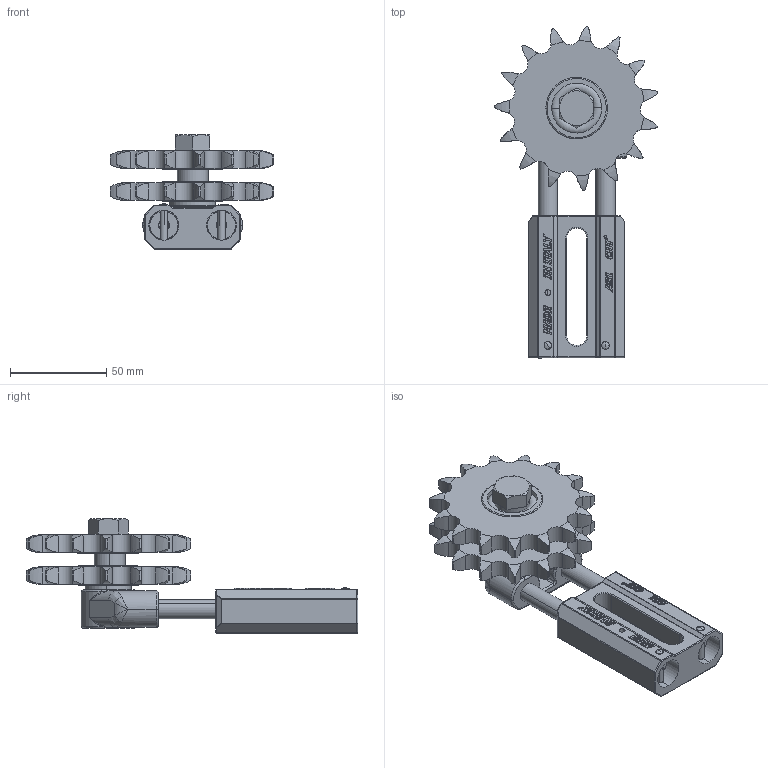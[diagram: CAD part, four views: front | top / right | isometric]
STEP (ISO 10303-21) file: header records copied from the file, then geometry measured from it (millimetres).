
FILE_DESCRIPTION (( 'STEP AP203' ), '1' );
FILE_NAME ('ASR1 5-8D cod.94021152.STEP', '2018-05-24T12:52:57', ( '' ), ( '' ), 'SwSTEP 2.0', 'SolidWorks 2016', '' );
FILE_SCHEMA (( 'CONFIG_CONTROL_DESIGN' ));
Length unit declared in the file: millimetre
Products named in the file (14): DS 5-8 12-16-6.6; AS 1-Base; ISO 4018 - M12 x 45-NC_ISO 4018 - M12 x 45-NC; R 5-8D M12 cod. 94061502_Montaggio; ASR1 5-8D cod.94021152; AS1 M12 cod. 94021012N; Chain wheel ISO - 15Z 10B-1 --15SA32.0N_Chain wheel ISO - 15Z 10B-1 --15SA32.0N; AS1-COL-AVP-comm.; Washer ISO 7089 - 12_Washer ISO 7089 - 12; ISO 8745-M4x22-St_ISO 8745-M4x22-St; Testa AS1 M12; SKF - 6201 - 8,SI,NC,8_68_SKF - 6201 - 8,SI,NC,8_68; Boccola 10-12-15; Ron. 5.3X15X1.2
Assembly tree (19 placements, depth 3):
  ASR1 5-8D cod.94021152
    AS1 M12 cod. 94021012N
      AS 1-Base
      AS1-COL-AVP-comm.  x2
      Boccola 10-12-15  x2
      Testa AS1 M12
      ISO 8745-M4x22-St_ISO 8745-M4x22-St  x2
      Ron. 5.3X15X1.2  x2
    R 5-8D M12 cod. 94061502_Montaggio
      Chain wheel ISO - 15Z 10B-1 --15SA32.0N_Chain wheel ISO - 15Z 10B-1 --15SA32.0N  x2
      SKF - 6201 - 8,SI,NC,8_68_SKF - 6201 - 8,SI,NC,8_68  x2
      DS 5-8 12-16-6.6
    Washer ISO 7089 - 12_Washer ISO 7089 - 12
    ISO 4018 - M12 x 45-NC_ISO 4018 - M12 x 45-NC
Bounding box: 85.33 x 172.74 x 59.55 mm (x, y, z)
Volume: 164723.3 mm3; surface area: 70609.9 mm2
Topology: 17 solids, 17 shells, 1085 faces, 2675 edges, 1615 vertices
Faces by surface type: cylinder 471, plane 294, bspline 130, torus 128, sphere 38, cone 24
Entity records: 33029 total; most frequent: CARTESIAN_POINT 11832, ORIENTED_EDGE 4344, DIRECTION 3682, EDGE_CURVE 2172, VERTEX_POINT 1313, AXIS2_PLACEMENT_3D 1306, LINE 1070, VECTOR 1070
